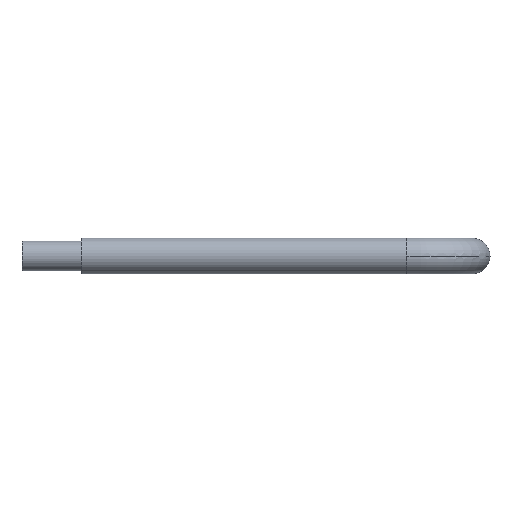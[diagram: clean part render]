
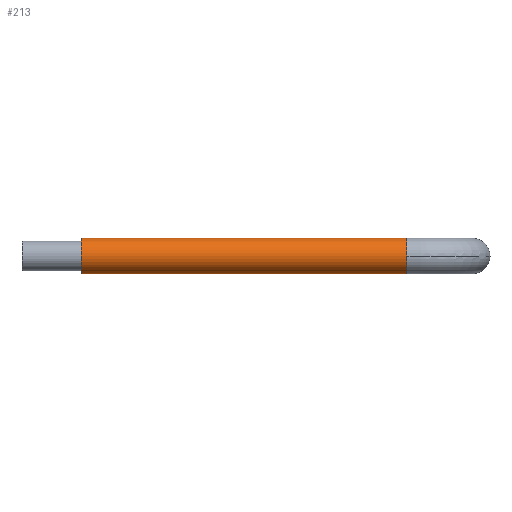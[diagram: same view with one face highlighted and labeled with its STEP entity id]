
A CAD part, left-side view. The second image highlights one B-rep face of the part: STEP entity #213.
In plain terms, the highlighted cylindrical face has radius 37.5 mm (diameter 75 mm), a partial arc.
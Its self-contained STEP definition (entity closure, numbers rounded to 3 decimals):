
#6 = DIRECTION ( 'NONE',  ( 0., 1., 0. ) ) ;
#9 = CARTESIAN_POINT ( 'NONE',  ( -303.5, 823.5, 0. ) ) ;
#10 = DIRECTION ( 'NONE',  ( -1., 0., 0. ) ) ;
#59 = DIRECTION ( 'NONE',  ( 0., 0., -1. ) ) ;
#60 = DIRECTION ( 'NONE',  ( 0., -1., 0. ) ) ;
#61 = CARTESIAN_POINT ( 'NONE',  ( -303.5, 137.5, 0. ) ) ;
#63 = DIRECTION ( 'NONE',  ( 0., 1., 0. ) ) ;
#82 = DIRECTION ( 'NONE',  ( 0., 1., 0. ) ) ;
#84 = CARTESIAN_POINT ( 'NONE',  ( -303.5, 137.5, -37.5 ) ) ;
#173 = CARTESIAN_POINT ( 'NONE',  ( -303.5, 137.5, 37.5 ) ) ;
#213 = ADVANCED_FACE ( 'NONE', ( #472 ), #510, .T. ) ;
#385 = VECTOR ( 'NONE', #82, 1000. ) ;
#425 = LINE ( 'NONE', #173, #518 ) ;
#436 = CIRCLE ( 'NONE', #1516, 37.5 ) ;
#437 = CIRCLE ( 'NONE', #1567, 37.5 ) ;
#443 = LINE ( 'NONE', #84, #385 ) ;
#470 = CIRCLE ( 'NONE', #1522, 37.5 ) ;
#472 = FACE_OUTER_BOUND ( 'NONE', #1274, .T. ) ;
#508 = CARTESIAN_POINT ( 'NONE',  ( -303.5, 137.5, 0. ) ) ;
#510 = CYLINDRICAL_SURFACE ( 'NONE', #1512, 37.5 ) ;
#518 = VECTOR ( 'NONE', #63, 1000. ) ;
#673 = DIRECTION ( 'NONE',  ( 0., 1., 0. ) ) ;
#679 = CARTESIAN_POINT ( 'NONE',  ( -303.5, 137.5, 0. ) ) ;
#680 = DIRECTION ( 'NONE',  ( 0., 0., 1. ) ) ;
#856 = CARTESIAN_POINT ( 'NONE',  ( -303.5, 823.5, 37.5 ) ) ;
#866 = CARTESIAN_POINT ( 'NONE',  ( -341., 137.5, 0. ) ) ;
#874 = CARTESIAN_POINT ( 'NONE',  ( -303.5, 137.5, -37.5 ) ) ;
#894 = CARTESIAN_POINT ( 'NONE',  ( -303.5, 823.5, -37.5 ) ) ;
#895 = CARTESIAN_POINT ( 'NONE',  ( -303.5, 137.5, 37.5 ) ) ;
#1040 = ORIENTED_EDGE ( 'NONE', *, *, #1403, .F. ) ;
#1059 = ORIENTED_EDGE ( 'NONE', *, *, #1429, .F. ) ;
#1075 = ORIENTED_EDGE ( 'NONE', *, *, #1404, .T. ) ;
#1111 = VERTEX_POINT ( 'NONE', #874 ) ;
#1166 = VERTEX_POINT ( 'NONE', #856 ) ;
#1206 = VERTEX_POINT ( 'NONE', #866 ) ;
#1246 = ORIENTED_EDGE ( 'NONE', *, *, #1374, .F. ) ;
#1274 = EDGE_LOOP ( 'NONE', ( #1275, #1246, #1040, #1075, #1059 ) ) ;
#1275 = ORIENTED_EDGE ( 'NONE', *, *, #1412, .F. ) ;
#1280 = VERTEX_POINT ( 'NONE', #894 ) ;
#1300 = VERTEX_POINT ( 'NONE', #895 ) ;
#1374 = EDGE_CURVE ( 'NONE', #1206, #1111, #470, .T. ) ;
#1403 = EDGE_CURVE ( 'NONE', #1300, #1206, #436, .T. ) ;
#1404 = EDGE_CURVE ( 'NONE', #1300, #1166, #425, .T. ) ;
#1412 = EDGE_CURVE ( 'NONE', #1111, #1280, #443, .T. ) ;
#1429 = EDGE_CURVE ( 'NONE', #1280, #1166, #437, .T. ) ;
#1512 = AXIS2_PLACEMENT_3D ( 'NONE', #679, #673, #680 ) ;
#1516 = AXIS2_PLACEMENT_3D ( 'NONE', #61, #60, #59 ) ;
#1522 = AXIS2_PLACEMENT_3D ( 'NONE', #508, #1701, #1702 ) ;
#1567 = AXIS2_PLACEMENT_3D ( 'NONE', #9, #6, #10 ) ;
#1701 = DIRECTION ( 'NONE',  ( 0., -1., 0. ) ) ;
#1702 = DIRECTION ( 'NONE',  ( 0., 0., -1. ) ) ;
